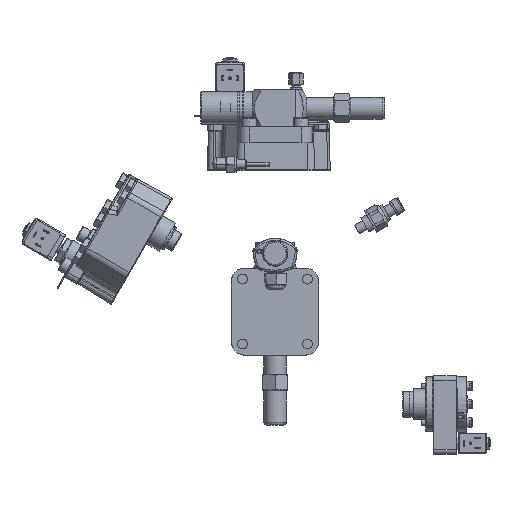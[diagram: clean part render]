
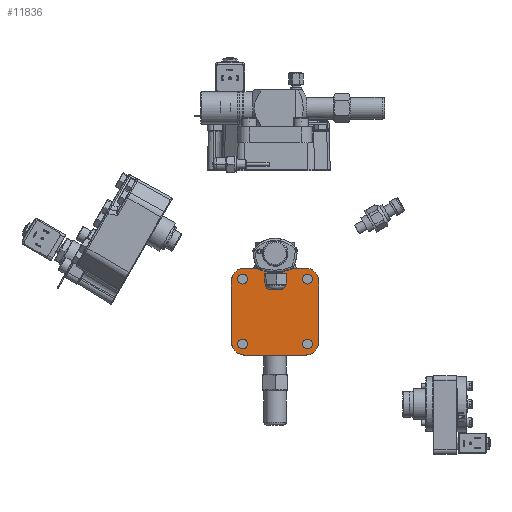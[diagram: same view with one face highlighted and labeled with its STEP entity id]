
A CAD part, front view. The second image highlights one B-rep face of the part: STEP entity #11836.
In plain terms, the highlighted planar face has unit normal (0, -1, 0).
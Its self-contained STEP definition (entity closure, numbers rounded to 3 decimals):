
#11836=ADVANCED_FACE('',(#14779,#14780,#14781,#14782,#14783),#13858,.F.);
#13858=PLANE('',#53488);
#14779=FACE_BOUND('',#17283,.T.);
#14780=FACE_BOUND('',#17284,.T.);
#14781=FACE_BOUND('',#17285,.T.);
#14782=FACE_BOUND('',#17286,.T.);
#14783=FACE_BOUND('',#17287,.T.);
#17283=EDGE_LOOP('',(#30949));
#17284=EDGE_LOOP('',(#30950));
#17285=EDGE_LOOP('',(#30951));
#17286=EDGE_LOOP('',(#30952));
#17287=EDGE_LOOP('',(#30953,#30954,#30955,#30956,#30957,#30958,#30959,#30960));
#20484=LINE('',#85220,#22831);
#20487=LINE('',#85226,#22834);
#20489=LINE('',#85230,#22836);
#20492=LINE('',#85236,#22839);
#22831=VECTOR('',#62460,1.);
#22834=VECTOR('',#62465,1.);
#22836=VECTOR('',#62469,1.);
#22839=VECTOR('',#62474,1.);
#30949=ORIENTED_EDGE('',*,*,#44831,.T.);
#30950=ORIENTED_EDGE('',*,*,#44832,.T.);
#30951=ORIENTED_EDGE('',*,*,#44833,.T.);
#30952=ORIENTED_EDGE('',*,*,#44834,.T.);
#30953=ORIENTED_EDGE('',*,*,#44820,.F.);
#30954=ORIENTED_EDGE('',*,*,#44835,.T.);
#30955=ORIENTED_EDGE('',*,*,#44828,.F.);
#30956=ORIENTED_EDGE('',*,*,#44836,.T.);
#30957=ORIENTED_EDGE('',*,*,#44825,.F.);
#30958=ORIENTED_EDGE('',*,*,#44837,.T.);
#30959=ORIENTED_EDGE('',*,*,#44823,.F.);
#30960=ORIENTED_EDGE('',*,*,#44838,.T.);
#39261=VERTEX_POINT('',#85219);
#39262=VERTEX_POINT('',#85221);
#39263=VERTEX_POINT('',#85225);
#39264=VERTEX_POINT('',#85227);
#39265=VERTEX_POINT('',#85231);
#39266=VERTEX_POINT('',#85232);
#39267=VERTEX_POINT('',#85237);
#39268=VERTEX_POINT('',#85238);
#39269=VERTEX_POINT('',#85243);
#39270=VERTEX_POINT('',#85245);
#39271=VERTEX_POINT('',#85247);
#39272=VERTEX_POINT('',#85249);
#44820=EDGE_CURVE('',#39261,#39262,#20484,.T.);
#44823=EDGE_CURVE('',#39263,#39264,#20487,.T.);
#44825=EDGE_CURVE('',#39265,#39266,#20489,.T.);
#44828=EDGE_CURVE('',#39267,#39268,#20492,.T.);
#44831=EDGE_CURVE('',#39269,#39269,#49639,.T.);
#44832=EDGE_CURVE('',#39270,#39270,#49640,.T.);
#44833=EDGE_CURVE('',#39271,#39271,#49641,.T.);
#44834=EDGE_CURVE('',#39272,#39272,#49642,.T.);
#44835=EDGE_CURVE('',#39261,#39268,#49643,.T.);
#44836=EDGE_CURVE('',#39267,#39266,#49644,.T.);
#44837=EDGE_CURVE('',#39265,#39264,#49645,.T.);
#44838=EDGE_CURVE('',#39263,#39262,#49646,.T.);
#49639=CIRCLE('',#53480,5.3);
#49640=CIRCLE('',#53481,5.3);
#49641=CIRCLE('',#53482,5.3);
#49642=CIRCLE('',#53483,5.3);
#49643=CIRCLE('',#53484,14.);
#49644=CIRCLE('',#53485,14.);
#49645=CIRCLE('',#53486,14.);
#49646=CIRCLE('',#53487,14.);
#53480=AXIS2_PLACEMENT_3D('',#85242,#62479,#62480);
#53481=AXIS2_PLACEMENT_3D('',#85244,#62481,#62482);
#53482=AXIS2_PLACEMENT_3D('',#85246,#62483,#62484);
#53483=AXIS2_PLACEMENT_3D('',#85248,#62485,#62486);
#53484=AXIS2_PLACEMENT_3D('',#85250,#62487,#62488);
#53485=AXIS2_PLACEMENT_3D('',#85251,#62489,#62490);
#53486=AXIS2_PLACEMENT_3D('',#85252,#62491,#62492);
#53487=AXIS2_PLACEMENT_3D('',#85253,#62493,#62494);
#53488=AXIS2_PLACEMENT_3D('',#85254,#62495,#62496);
#62460=DIRECTION('',(1.,0.,0.));
#62465=DIRECTION('',(0.,0.,-1.));
#62469=DIRECTION('',(-1.,0.,0.));
#62474=DIRECTION('',(0.,0.,1.));
#62479=DIRECTION('',(0.,1.,0.));
#62480=DIRECTION('',(0.,0.,-1.));
#62481=DIRECTION('',(0.,1.,0.));
#62482=DIRECTION('',(0.,0.,-1.));
#62483=DIRECTION('',(0.,1.,0.));
#62484=DIRECTION('',(0.,0.,-1.));
#62485=DIRECTION('',(0.,1.,0.));
#62486=DIRECTION('',(0.,0.,-1.));
#62487=DIRECTION('',(0.,-1.,0.));
#62488=DIRECTION('',(0.,0.,-1.));
#62489=DIRECTION('',(0.,-1.,0.));
#62490=DIRECTION('',(0.,0.,-1.));
#62491=DIRECTION('',(0.,-1.,0.));
#62492=DIRECTION('',(0.,0.,-1.));
#62493=DIRECTION('',(0.,-1.,0.));
#62494=DIRECTION('',(0.,0.,-1.));
#62495=DIRECTION('',(0.,1.,0.));
#62496=DIRECTION('',(0.,0.,-1.));
#85219=CARTESIAN_POINT('',(-33.,708.406,57.));
#85220=CARTESIAN_POINT('',(-47.,708.406,57.));
#85221=CARTESIAN_POINT('',(33.,708.406,57.));
#85225=CARTESIAN_POINT('',(47.,708.406,43.));
#85226=CARTESIAN_POINT('',(47.,708.406,57.));
#85227=CARTESIAN_POINT('',(47.,708.406,-23.));
#85230=CARTESIAN_POINT('',(47.,708.406,-37.));
#85231=CARTESIAN_POINT('',(33.,708.406,-37.));
#85232=CARTESIAN_POINT('',(-33.,708.406,-37.));
#85236=CARTESIAN_POINT('',(-47.,708.406,-37.));
#85237=CARTESIAN_POINT('',(-47.,708.406,-23.));
#85238=CARTESIAN_POINT('',(-47.,708.406,43.));
#85242=CARTESIAN_POINT('',(-35.,708.406,-25.));
#85243=CARTESIAN_POINT('',(-35.,708.406,-30.3));
#85244=CARTESIAN_POINT('',(35.,708.406,-25.));
#85245=CARTESIAN_POINT('',(35.,708.406,-30.3));
#85246=CARTESIAN_POINT('',(-35.,708.406,45.));
#85247=CARTESIAN_POINT('',(-35.,708.406,39.7));
#85248=CARTESIAN_POINT('',(35.,708.406,45.));
#85249=CARTESIAN_POINT('',(35.,708.406,39.7));
#85250=CARTESIAN_POINT('',(-33.,708.406,43.));
#85251=CARTESIAN_POINT('',(-33.,708.406,-23.));
#85252=CARTESIAN_POINT('',(33.,708.406,-23.));
#85253=CARTESIAN_POINT('',(33.,708.406,43.));
#85254=CARTESIAN_POINT('',(0.,708.406,10.));
